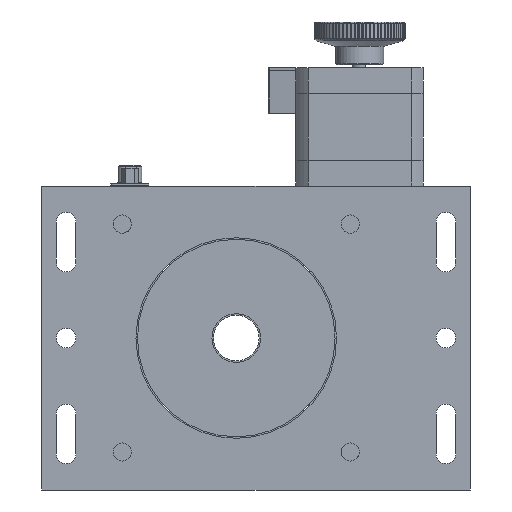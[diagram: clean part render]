
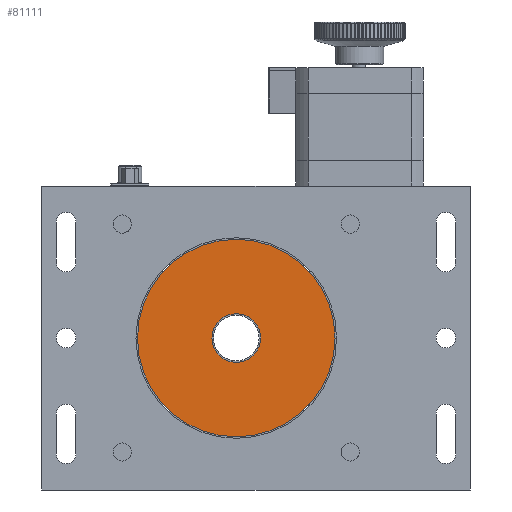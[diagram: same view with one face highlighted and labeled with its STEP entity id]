
A CAD part, front view. The second image highlights one B-rep face of the part: STEP entity #81111.
In plain terms, the highlighted planar face has unit normal (0, -1, 0).
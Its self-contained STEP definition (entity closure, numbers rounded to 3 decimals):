
#14412 = EDGE_LOOP ( 'NONE', ( #83918 ) ) ;
#14426 = EDGE_LOOP ( 'NONE', ( #83916 ) ) ;
#41201 = CARTESIAN_POINT ( 'NONE',  ( -39.689, -19.308, 0. ) ) ;
#41205 = PLANE ( 'NONE',  #98018 ) ;
#41209 = DIRECTION ( 'NONE',  ( 0., -1., 0. ) ) ;
#41211 = DIRECTION ( 'NONE',  ( 0.5, 0., 0.866 ) ) ;
#46221 = VERTEX_POINT ( 'NONE', #65150 ) ;
#46223 = VERTEX_POINT ( 'NONE', #65154 ) ;
#47171 = FACE_OUTER_BOUND ( 'NONE', #14426, .T. ) ;
#47176 = FACE_BOUND ( 'NONE', #14412, .T. ) ;
#49008 = CIRCLE ( 'NONE', #52757, 8. ) ;
#49015 = CIRCLE ( 'NONE', #52759, 32.5 ) ;
#52757 = AXIS2_PLACEMENT_3D ( 'NONE', #91593, #91594, #91595 ) ;
#52759 = AXIS2_PLACEMENT_3D ( 'NONE', #91600, #91601, #91602 ) ;
#65150 = CARTESIAN_POINT ( 'NONE',  ( -43.689, -19.308, -6.928 ) ) ;
#65154 = CARTESIAN_POINT ( 'NONE',  ( -55.939, -19.308, -28.146 ) ) ;
#81111 = ADVANCED_FACE ( 'NONE', ( #47176, #47171 ), #41205, .T. ) ;
#83916 = ORIENTED_EDGE ( 'NONE', *, *, #84103, .F. ) ;
#83918 = ORIENTED_EDGE ( 'NONE', *, *, #84099, .T. ) ;
#84099 = EDGE_CURVE ( 'NONE', #46221, #46221, #49008, .T. ) ;
#84103 = EDGE_CURVE ( 'NONE', #46223, #46223, #49015, .T. ) ;
#91593 = CARTESIAN_POINT ( 'NONE',  ( -39.689, -19.308, 0. ) ) ;
#91594 = DIRECTION ( 'NONE',  ( 0., 1., 0. ) ) ;
#91595 = DIRECTION ( 'NONE',  ( -0.5, 0., -0.866 ) ) ;
#91600 = CARTESIAN_POINT ( 'NONE',  ( -39.689, -19.308, 0. ) ) ;
#91601 = DIRECTION ( 'NONE',  ( 0., 1., 0. ) ) ;
#91602 = DIRECTION ( 'NONE',  ( -0.5, 0., -0.866 ) ) ;
#98018 = AXIS2_PLACEMENT_3D ( 'NONE', #41201, #41209, #41211 ) ;
